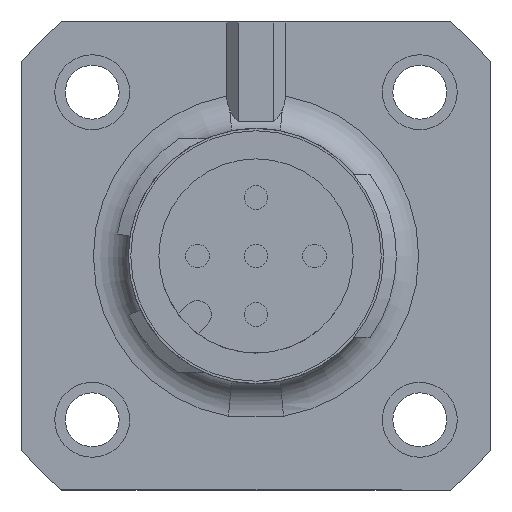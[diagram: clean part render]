
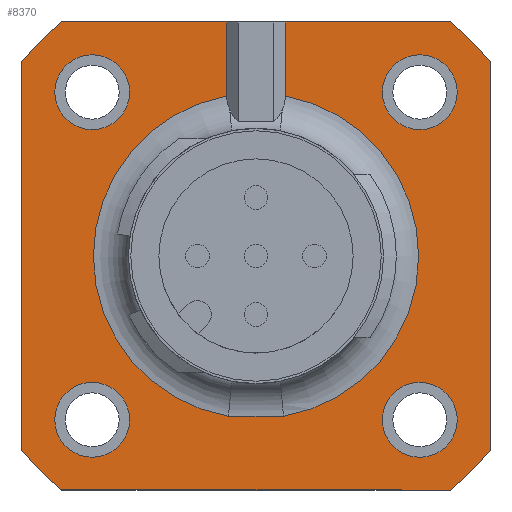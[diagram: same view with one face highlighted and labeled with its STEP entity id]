
A CAD part, left-side view. The second image highlights one B-rep face of the part: STEP entity #8370.
In plain terms, the highlighted planar face has unit normal (-1, 0, 0) as drawn and (0, 0, -1) by its records, which use the part's own axes.
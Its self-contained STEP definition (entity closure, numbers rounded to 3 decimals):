
#6520=CARTESIAN_POINT('',(8.375,0.823,
10.));
#6530=DIRECTION('',(-0.,0.,-1.));
#6540=DIRECTION('',(-0.866,-0.5,0.));
#6550=AXIS2_PLACEMENT_3D('',#6520,#6530,#6540);
#6560=PLANE('',#6550);
#6570=CARTESIAN_POINT('',(0.,0.,10.));
#6580=DIRECTION('',(0.,0.,-1.));
#6590=DIRECTION('',(-0.639,-0.769,0.));
#6600=AXIS2_PLACEMENT_3D('',#6570,#6580,#6590);
#6610=CIRCLE('',#6600,13.);
#6620=CARTESIAN_POINT('',(-8.307,-10.,10.));
#6630=VERTEX_POINT('',#6620);
#6640=CARTESIAN_POINT('',(-10.,-8.307,10.));
#6650=VERTEX_POINT('',#6640);
#6660=EDGE_CURVE('',#6630,#6650,#6610,.T.);
#6670=ORIENTED_EDGE('',*,*,#6660,.T.);
#6680=CARTESIAN_POINT('',(1.374,-10.,10.));
#6690=DIRECTION('',(1.,0.,0.));
#6700=VECTOR('',#6690,1.);
#6710=LINE('',#6680,#6700);
#6720=CARTESIAN_POINT('',(-1.25,-10.,10.));
#6730=VERTEX_POINT('',#6720);
#6740=EDGE_CURVE('',#6630,#6730,#6710,.T.);
#6750=ORIENTED_EDGE('',*,*,#6740,.F.);
#6760=CARTESIAN_POINT('',(-1.25,4.817,
10.));
#6770=DIRECTION('',(0.,-1.,0.));
#6780=VECTOR('',#6770,1.);
#6790=LINE('',#6760,#6780);
#6800=CARTESIAN_POINT('',(-1.25,-6.837,
10.));
#6810=VERTEX_POINT('',#6800);
#6820=EDGE_CURVE('',#6810,#6730,#6790,.T.);
#6830=ORIENTED_EDGE('',*,*,#6820,.T.);
#6840=CARTESIAN_POINT('',(0.,0.,10.));
#6850=DIRECTION('',(0.,0.,1.));
#6860=DIRECTION('',(-1.,0.,0.));
#6870=AXIS2_PLACEMENT_3D('',#6840,#6850,#6860);
#6880=CIRCLE('',#6870,6.95);
#6890=CARTESIAN_POINT('',(-1.175,6.85,10.));
#6900=VERTEX_POINT('',#6890);
#6910=EDGE_CURVE('',#6900,#6810,#6880,.T.);
#6920=ORIENTED_EDGE('',*,*,#6910,.T.);
#6930=CARTESIAN_POINT('',(0.,6.85,10.));
#6940=DIRECTION('',(-1.,0.,0.));
#6950=VECTOR('',#6940,1.);
#6960=LINE('',#6930,#6950);
#6970=CARTESIAN_POINT('',(1.175,6.85,10.));
#6980=VERTEX_POINT('',#6970);
#6990=EDGE_CURVE('',#6980,#6900,#6960,.T.);
#7000=ORIENTED_EDGE('',*,*,#6990,.T.);
#7010=CARTESIAN_POINT('',(0.,0.,10.));
#7020=DIRECTION('',(0.,0.,1.));
#7030=DIRECTION('',(-1.,0.,0.));
#7040=AXIS2_PLACEMENT_3D('',#7010,#7020,#7030);
#7050=CIRCLE('',#7040,6.95);
#7060=CARTESIAN_POINT('',(1.25,-6.837,
10.));
#7070=VERTEX_POINT('',#7060);
#7080=EDGE_CURVE('',#7070,#6980,#7050,.T.);
#7090=ORIENTED_EDGE('',*,*,#7080,.T.);
#7100=CARTESIAN_POINT('',(1.25,4.817,
10.));
#7110=DIRECTION('',(0.,1.,0.));
#7120=VECTOR('',#7110,1.);
#7130=LINE('',#7100,#7120);
#7140=CARTESIAN_POINT('',(1.25,-10.,10.));
#7150=VERTEX_POINT('',#7140);
#7160=EDGE_CURVE('',#7150,#7070,#7130,.T.);
#7170=ORIENTED_EDGE('',*,*,#7160,.T.);
#7180=CARTESIAN_POINT('',(8.307,-10.,10.));
#7190=VERTEX_POINT('',#7180);
#7200=EDGE_CURVE('',#7150,#7190,#6710,.T.);
#7210=ORIENTED_EDGE('',*,*,#7200,.F.);
#7220=CARTESIAN_POINT('',(0.,0.,10.));
#7230=DIRECTION('',(0.,0.,-1.));
#7240=DIRECTION('',(0.769,-0.639,0.));
#7250=AXIS2_PLACEMENT_3D('',#7220,#7230,#7240);
#7260=CIRCLE('',#7250,13.);
#7270=CARTESIAN_POINT('',(10.,-8.307,10.));
#7280=VERTEX_POINT('',#7270);
#7290=EDGE_CURVE('',#7280,#7190,#7260,.T.);
#7300=ORIENTED_EDGE('',*,*,#7290,.T.);
#7310=CARTESIAN_POINT('',(10.,-8.307,10.));
#7320=DIRECTION('',(0.,1.,0.));
#7330=VECTOR('',#7320,1.);
#7340=LINE('',#7310,#7330);
#7350=CARTESIAN_POINT('',(10.,8.307,10.));
#7360=VERTEX_POINT('',#7350);
#7370=EDGE_CURVE('',#7280,#7360,#7340,.T.);
#7380=ORIENTED_EDGE('',*,*,#7370,.F.);
#7390=CARTESIAN_POINT('',(0.,0.,10.));
#7400=DIRECTION('',(0.,0.,-1.));
#7410=DIRECTION('',(0.639,0.769,0.));
#7420=AXIS2_PLACEMENT_3D('',#7390,#7400,#7410);
#7430=CIRCLE('',#7420,13.);
#7440=CARTESIAN_POINT('',(8.307,10.,10.));
#7450=VERTEX_POINT('',#7440);
#7460=EDGE_CURVE('',#7450,#7360,#7430,.T.);
#7470=ORIENTED_EDGE('',*,*,#7460,.T.);
#7480=CARTESIAN_POINT('',(8.307,10.,10.));
#7490=DIRECTION('',(-1.,0.,0.));
#7500=VECTOR('',#7490,1.);
#7510=LINE('',#7480,#7500);
#7520=CARTESIAN_POINT('',(-8.307,10.,
10.));
#7530=VERTEX_POINT('',#7520);
#7540=EDGE_CURVE('',#7450,#7530,#7510,.T.);
#7550=ORIENTED_EDGE('',*,*,#7540,.F.);
#7560=CARTESIAN_POINT('',(0.,0.,10.));
#7570=DIRECTION('',(0.,0.,-1.));
#7580=DIRECTION('',(-0.769,0.639,0.));
#7590=AXIS2_PLACEMENT_3D('',#7560,#7570,#7580);
#7600=CIRCLE('',#7590,13.);
#7610=CARTESIAN_POINT('',(-10.,8.307,10.));
#7620=VERTEX_POINT('',#7610);
#7630=EDGE_CURVE('',#7620,#7530,#7600,.T.);
#7640=ORIENTED_EDGE('',*,*,#7630,.T.);
#7650=CARTESIAN_POINT('',(-10.,8.307,
10.));
#7660=DIRECTION('',(0.,-1.,0.));
#7670=VECTOR('',#7660,1.);
#7680=LINE('',#7650,#7670);
#7690=EDGE_CURVE('',#7620,#6650,#7680,.T.);
#7700=ORIENTED_EDGE('',*,*,#7690,.F.);
#7710=EDGE_LOOP('',(#7700,#7640,#7550,#7470,#7380,#7300,#7210,#7170,
#7090,#7000,#6920,#6830,#6750,#6670));
#7720=FACE_OUTER_BOUND('',#7710,.T.);
#7730=CARTESIAN_POINT('',(-7.,-7.,10.));
#7740=DIRECTION('',(0.,0.,-1.));
#7750=DIRECTION('',(0.,1.,0.));
#7760=AXIS2_PLACEMENT_3D('',#7730,#7740,#7750);
#7770=CIRCLE('',#7760,1.6);
#7780=CARTESIAN_POINT('',(-7.,-8.6,10.));
#7790=VERTEX_POINT('',#7780);
#7800=CARTESIAN_POINT('',(-7.,-5.4,10.));
#7810=VERTEX_POINT('',#7800);
#7820=EDGE_CURVE('',#7790,#7810,#7770,.T.);
#7830=ORIENTED_EDGE('',*,*,#7820,.F.);
#7840=EDGE_CURVE('',#7810,#7790,#7770,.T.);
#7850=ORIENTED_EDGE('',*,*,#7840,.F.);
#7860=EDGE_LOOP('',(#7850,#7830));
#7870=FACE_BOUND('',#7860,.T.);
#7880=CARTESIAN_POINT('',(-7.,7.,10.));
#7890=DIRECTION('',(0.,0.,-1.));
#7900=DIRECTION('',(0.,1.,0.));
#7910=AXIS2_PLACEMENT_3D('',#7880,#7890,#7900);
#7920=CIRCLE('',#7910,1.6);
#7930=CARTESIAN_POINT('',(-7.078,5.402,
10.));
#7940=VERTEX_POINT('',#7930);
#7950=CARTESIAN_POINT('',(-7.,8.6,10.));
#7960=VERTEX_POINT('',#7950);
#7970=EDGE_CURVE('',#7940,#7960,#7920,.T.);
#7980=ORIENTED_EDGE('',*,*,#7970,.F.);
#7990=CARTESIAN_POINT('',(-7.,5.4,10.));
#8000=VERTEX_POINT('',#7990);
#8010=EDGE_CURVE('',#7960,#8000,#7920,.T.);
#8020=ORIENTED_EDGE('',*,*,#8010,.F.);
#8030=EDGE_CURVE('',#8000,#7940,#7920,.T.);
#8040=ORIENTED_EDGE('',*,*,#8030,.F.);
#8050=EDGE_LOOP('',(#8040,#8020,#7980));
#8060=FACE_BOUND('',#8050,.T.);
#8070=CARTESIAN_POINT('',(7.,7.,10.));
#8080=DIRECTION('',(0.,0.,1.));
#8090=DIRECTION('',(0.049,0.999,0.));
#8100=AXIS2_PLACEMENT_3D('',#8070,#8080,#8090);
#8110=CIRCLE('',#8100,1.6);
#8120=CARTESIAN_POINT('',(7.078,8.598,
10.));
#8130=VERTEX_POINT('',#8120);
#8140=CARTESIAN_POINT('',(6.922,5.402,
10.));
#8150=VERTEX_POINT('',#8140);
#8160=EDGE_CURVE('',#8130,#8150,#8110,.T.);
#8170=ORIENTED_EDGE('',*,*,#8160,.T.);
#8180=EDGE_CURVE('',#8150,#8130,#8110,.T.);
#8190=ORIENTED_EDGE('',*,*,#8180,.T.);
#8200=EDGE_LOOP('',(#8190,#8170));
#8210=FACE_BOUND('',#8200,.T.);
#8220=CARTESIAN_POINT('',(7.,-7.,10.));
#8230=DIRECTION('',(0.,0.,-1.));
#8240=DIRECTION('',(0.,1.,0.));
#8250=AXIS2_PLACEMENT_3D('',#8220,#8230,#8240);
#8260=CIRCLE('',#8250,1.6);
#8270=CARTESIAN_POINT('',(7.,-8.6,10.));
#8280=VERTEX_POINT('',#8270);
#8290=CARTESIAN_POINT('',(7.,-5.4,10.));
#8300=VERTEX_POINT('',#8290);
#8310=EDGE_CURVE('',#8280,#8300,#8260,.T.);
#8320=ORIENTED_EDGE('',*,*,#8310,.F.);
#8330=EDGE_CURVE('',#8300,#8280,#8260,.T.);
#8340=ORIENTED_EDGE('',*,*,#8330,.F.);
#8350=EDGE_LOOP('',(#8340,#8320));
#8360=FACE_BOUND('',#8350,.T.);
#8370=ADVANCED_FACE('',(#7720,#7870,#8060,#8210,#8360),#6560,.T.);
